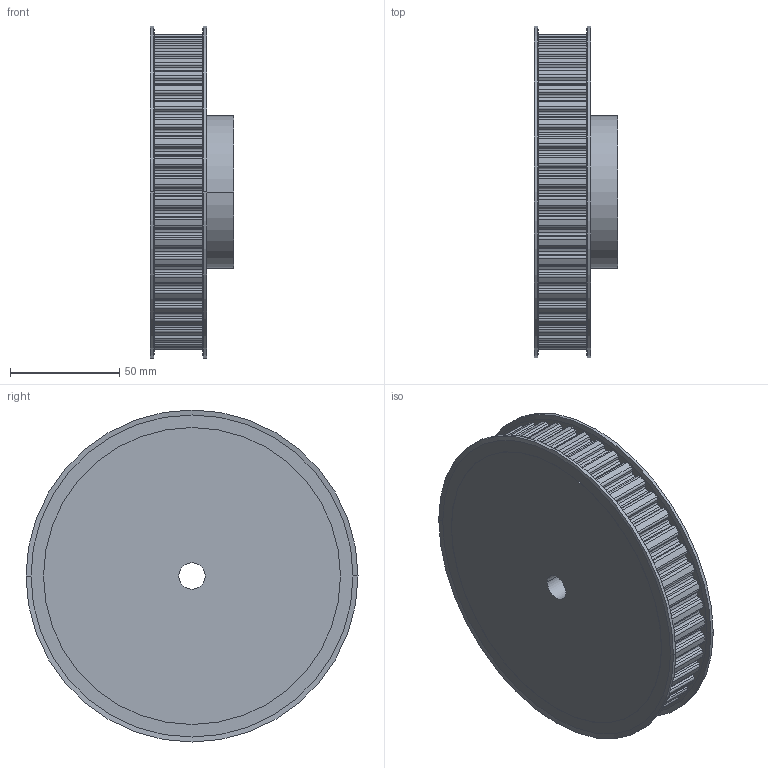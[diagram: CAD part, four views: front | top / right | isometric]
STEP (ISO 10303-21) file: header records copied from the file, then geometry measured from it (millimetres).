
FILE_DESCRIPTION( ( '' ), '1' );
FILE_NAME( 'C:/Users/Stangenbergd/Documents/CAD_Step/1/18224800.stp', '2021-10-19T10:38:21', ( '' ), ( '' ), ' ', ' ', ' ' );
FILE_SCHEMA( ( 'CONFIG_CONTROL_DESIGN' ) );
Length unit declared in the file: millimetre
Products named in the file (1): 1
Bounding box: 38.17 x 152 x 152 mm (x, y, z)
Volume: 455430.5 mm3; surface area: 59275.5 mm2
Topology: 1 solids, 1 shells, 411 faces, 1204 edges, 800 vertices
Faces by surface type: cylinder 252, plane 151, cone 8
Entity records: 13894 total; most frequent: DIRECTION 2540, CARTESIAN_POINT 2416, ORIENTED_EDGE 2408, EDGE_CURVE 1204, AXIS2_PLACEMENT_3D 924, VERTEX_POINT 800, LINE 692, VECTOR 692
